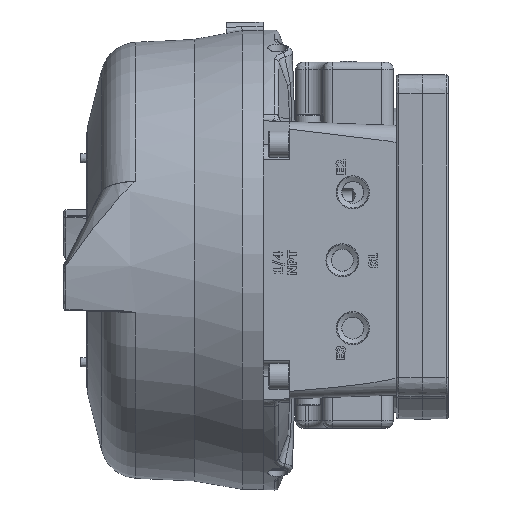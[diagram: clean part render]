
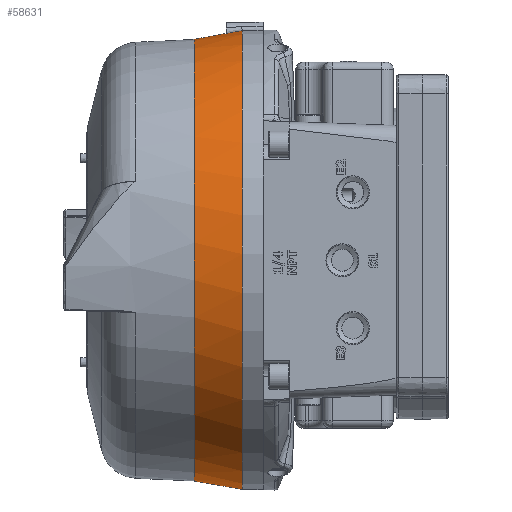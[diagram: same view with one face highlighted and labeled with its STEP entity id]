
A CAD part, left-side view. The second image highlights one B-rep face of the part: STEP entity #58631.
In plain terms, the highlighted conical face has half-angle 10 degrees and reference radius 77.051 mm.
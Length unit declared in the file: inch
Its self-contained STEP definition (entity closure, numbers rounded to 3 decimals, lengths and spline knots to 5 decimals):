
#2249=B_SPLINE_CURVE_WITH_KNOTS('',3,(#110668,#110669,#110670,#110671,#110672,
#110673),.UNSPECIFIED.,.F.,.F.,(4,1,1,4),(-3.33764,-2.86096,
-2.54318,-2.23062),.UNSPECIFIED.);
#2252=B_SPLINE_CURVE_WITH_KNOTS('',3,(#110718,#110719,#110720,#110721,#110722,
#110723),.UNSPECIFIED.,.F.,.F.,(4,1,1,4),(-1.7454,-1.43265,
-1.11466,-0.63769),.UNSPECIFIED.);
#2264=B_SPLINE_CURVE_WITH_KNOTS('',3,(#111107,#111108,#111109,#111110),
 .UNSPECIFIED.,.F.,.F.,(4,4),(-2.0057,-1.43804),
 .UNSPECIFIED.);
#2266=B_SPLINE_CURVE_WITH_KNOTS('',3,(#111134,#111135,#111136,#111137),
 .UNSPECIFIED.,.F.,.F.,(4,4),(-1.7968,-1.22914),
 .UNSPECIFIED.);
#16495=FACE_OUTER_BOUND('',#20164,.T.);
#20164=EDGE_LOOP('',(#45099,#45100,#45101,#45102,#45103,#45104,#45105,#45106));
#23029=CIRCLE('',#62361,3.08754);
#23031=CIRCLE('',#62365,3.04892);
#23032=CIRCLE('',#62366,3.04892);
#23033=CIRCLE('',#62367,2.97398);
#26275=VERTEX_POINT('',#110560);
#26276=VERTEX_POINT('',#110565);
#26282=VERTEX_POINT('',#110650);
#26283=VERTEX_POINT('',#110667);
#26285=VERTEX_POINT('',#110716);
#26286=VERTEX_POINT('',#110717);
#26292=VERTEX_POINT('',#111074);
#26295=VERTEX_POINT('',#111133);
#33057=EDGE_CURVE('',#26275,#26276,#23029,.T.);
#33065=EDGE_CURVE('',#26282,#26283,#2249,.T.);
#33068=EDGE_CURVE('',#26285,#26286,#2252,.T.);
#33081=EDGE_CURVE('',#26276,#26292,#2264,.T.);
#33083=EDGE_CURVE('',#26282,#26292,#23031,.T.);
#33084=EDGE_CURVE('',#26295,#26275,#2266,.T.);
#33085=EDGE_CURVE('',#26295,#26286,#23032,.T.);
#33086=EDGE_CURVE('',#26285,#26283,#23033,.T.);
#45099=ORIENTED_EDGE('',*,*,#33065,.F.);
#45100=ORIENTED_EDGE('',*,*,#33083,.T.);
#45101=ORIENTED_EDGE('',*,*,#33081,.F.);
#45102=ORIENTED_EDGE('',*,*,#33057,.F.);
#45103=ORIENTED_EDGE('',*,*,#33084,.F.);
#45104=ORIENTED_EDGE('',*,*,#33085,.T.);
#45105=ORIENTED_EDGE('',*,*,#33068,.F.);
#45106=ORIENTED_EDGE('',*,*,#33086,.T.);
#55067=CONICAL_SURFACE('',#62364,3.03349,10.);
#58631=ADVANCED_FACE('',(#16495),#55067,.T.);
#62361=AXIS2_PLACEMENT_3D('',#110566,#70454,#70455);
#62364=AXIS2_PLACEMENT_3D('',#111131,#70460,#70461);
#62365=AXIS2_PLACEMENT_3D('',#111132,#70462,#70463);
#62366=AXIS2_PLACEMENT_3D('',#111138,#70464,#70465);
#62367=AXIS2_PLACEMENT_3D('',#111139,#70466,#70467);
#70454=DIRECTION('center_axis',(0.,-1.,0.));
#70455=DIRECTION('ref_axis',(1.,0.,0.));
#70460=DIRECTION('center_axis',(0.,-1.,0.));
#70461=DIRECTION('ref_axis',(1.,0.,0.));
#70462=DIRECTION('center_axis',(0.,1.,0.));
#70463=DIRECTION('ref_axis',(1.,0.,0.));
#70464=DIRECTION('center_axis',(0.,1.,0.));
#70465=DIRECTION('ref_axis',(1.,0.,0.));
#70466=DIRECTION('center_axis',(0.,-1.,0.));
#70467=DIRECTION('ref_axis',(1.,0.,0.));
#110560=CARTESIAN_POINT('',(-0.23822,0.28098,3.07833));
#110565=CARTESIAN_POINT('',(0.23822,0.28098,3.07833));
#110566=CARTESIAN_POINT('Origin',(0.,0.28098,
0.));
#110650=CARTESIAN_POINT('',(0.11115,0.5,3.04689));
#110667=CARTESIAN_POINT('',(0.05242,0.925,2.97352));
#110668=CARTESIAN_POINT('Ctrl Pts',(0.11115,0.5,
3.04689));
#110669=CARTESIAN_POINT('Ctrl Pts',(0.10839,0.56163,
3.03612));
#110670=CARTESIAN_POINT('Ctrl Pts',(0.1013,0.66414,3.01829));
#110671=CARTESIAN_POINT('Ctrl Pts',(0.08227,0.80643,
2.99378));
#110672=CARTESIAN_POINT('Ctrl Pts',(0.06527,0.88655,
2.98007));
#110673=CARTESIAN_POINT('Ctrl Pts',(0.05242,0.925,
2.97352));
#110716=CARTESIAN_POINT('',(-0.05242,0.925,2.97352));
#110717=CARTESIAN_POINT('',(-0.11115,0.5,3.04689));
#110718=CARTESIAN_POINT('Ctrl Pts',(-0.05242,0.925,
2.97352));
#110719=CARTESIAN_POINT('Ctrl Pts',(-0.06528,0.88653,
2.98008));
#110720=CARTESIAN_POINT('Ctrl Pts',(-0.08227,0.8064,
2.99378));
#110721=CARTESIAN_POINT('Ctrl Pts',(-0.10128,0.6643,
3.01827));
#110722=CARTESIAN_POINT('Ctrl Pts',(-0.10839,0.5616,
3.03612));
#110723=CARTESIAN_POINT('Ctrl Pts',(-0.11115,0.5,
3.04689));
#111074=CARTESIAN_POINT('',(0.25692,0.5,3.03807));
#111107=CARTESIAN_POINT('Ctrl Pts',(0.23822,0.28098,
3.07833));
#111108=CARTESIAN_POINT('Ctrl Pts',(0.24578,0.35392,
3.06485));
#111109=CARTESIAN_POINT('Ctrl Pts',(0.2519,0.4269,
3.05143));
#111110=CARTESIAN_POINT('Ctrl Pts',(0.25692,0.5,
3.03807));
#111131=CARTESIAN_POINT('Origin',(0.,0.5875,0.));
#111132=CARTESIAN_POINT('Origin',(0.,0.5,
0.));
#111133=CARTESIAN_POINT('',(-0.25692,0.5,3.03807));
#111134=CARTESIAN_POINT('Ctrl Pts',(-0.25692,0.5,
3.03807));
#111135=CARTESIAN_POINT('Ctrl Pts',(-0.2519,0.4269,
3.05143));
#111136=CARTESIAN_POINT('Ctrl Pts',(-0.24578,0.35392,
3.06485));
#111137=CARTESIAN_POINT('Ctrl Pts',(-0.23822,0.28098,
3.07833));
#111138=CARTESIAN_POINT('Origin',(0.,0.5,
0.));
#111139=CARTESIAN_POINT('Origin',(0.,0.925,0.));
